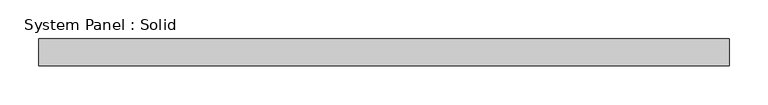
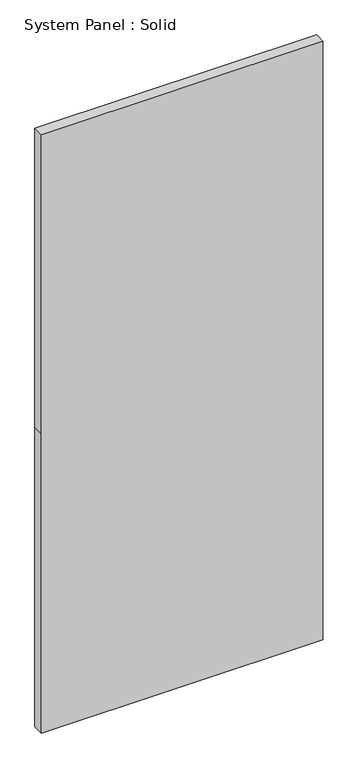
"""IFC4 building model written with IfcOpenShell, lengths in millimetres: plate geometry, System Panel : Solid."""

import ifcopenshell
import ifcopenshell.guid

model = None  # the IFC model being written
_history = None  # IfcOwnerHistory: only IFC2X3 demands one
_inside = {}  # id of a spatial element -> (the spatial element, [elements in it])
_under = {}  # id of a project, library or spatial element -> (it, [spatial elements below it])
_declared = {}  # id of a project -> (the project, [libraries it declares])
_typed = {}  # id of a type object -> (the type object, [elements of that type])
_made_of = {}  # id of a material, layer set ... -> (it, [elements and type objects made of it])


def new_model(schema):
    """Start an empty IFC model of exactly this schema.

    Asked for "IFC4X3", IfcOpenShell would pick the latest addendum, in which some entities
    have other attributes; the version numbers below select the first issue.
    IFC2X3 requires an IfcOwnerHistory on every rooted entity: one is made here for all.
    """
    global model, _history
    if schema == "IFC4X3":
        model = ifcopenshell.file(schema_version=(4, 3, 0, 0))
    else:
        model = ifcopenshell.file(schema=schema)
    _inside.clear()
    _under.clear()
    _declared.clear()
    _typed.clear()
    _made_of.clear()
    _history = None
    if model.schema == "IFC2X3":
        org = make("IfcOrganization", Name="unknown")
        user = make(
            "IfcPersonAndOrganization",
            ThePerson=make("IfcPerson", FamilyName="unknown"),
            TheOrganization=org,
        )
        app = make(
            "IfcApplication",
            ApplicationDeveloper=org,
            Version="unknown",
            ApplicationFullName="unknown",
            ApplicationIdentifier="unknown",
        )
        _history = make(
            "IfcOwnerHistory",
            OwningUser=user,
            OwningApplication=app,
            ChangeAction="ADDED",
            CreationDate=0,
        )
    return model


def make(cls, **values):
    """One entity of the class cls with the attributes given. An attribute that is None is left unset."""
    return model.create_entity(
        cls, **{name: value for name, value in values.items() if value is not None}
    )


def rooted(cls, **values):
    """An entity with a GlobalId (a new one), such as an element, a storey or a relation."""
    return make(cls, GlobalId=ifcopenshell.guid.new(), OwnerHistory=_history, **values)


def si_unit(unit_type, name, prefix=None):
    """IfcSIUnit, for example si_unit("LENGTHUNIT", "METRE", prefix="MILLI")."""
    return make("IfcSIUnit", UnitType=unit_type, Prefix=prefix, Name=name)


def assignment(units):
    """IfcUnitAssignment: the units of a project."""
    return None if units is None else make("IfcUnitAssignment", Units=units)


def point(xyz):
    """IfcCartesianPoint."""
    return None if xyz is None else make("IfcCartesianPoint", Coordinates=xyz)


def direction(xyz):
    """IfcDirection."""
    return None if xyz is None else make("IfcDirection", DirectionRatios=xyz)


def frame(location, z_axis=None, x_axis=None):
    """IfcAxis2Placement3D, a coordinate frame: its origin and axes. An axis left out is left unset."""
    return make(
        "IfcAxis2Placement3D",
        Location=point(location),
        Axis=direction(z_axis),
        RefDirection=direction(x_axis),
    )


def origin():
    """The frame at (0, 0, 0) with its axes left unset."""
    return frame((0.0, 0.0, 0.0))


def place(relative_to, where):
    """IfcLocalPlacement: puts the frame where relative to a parent placement (None: the world)."""
    return make(
        "IfcLocalPlacement", PlacementRelTo=relative_to, RelativePlacement=where
    )


def context(
    kind, dimensions, precision=None, world=None, true_north=None, identifier=None
):
    """IfcGeometricRepresentationContext, for example the 3D "Model" context."""
    return make(
        "IfcGeometricRepresentationContext",
        ContextIdentifier=identifier,
        ContextType=kind,
        CoordinateSpaceDimension=dimensions,
        Precision=precision,
        WorldCoordinateSystem=world,
        TrueNorth=true_north,
    )


def project(units=None, contexts=None):
    """IfcProject with its units and contexts."""
    return rooted(
        "IfcProject",
        Name="project",
        RepresentationContexts=contexts,
        UnitsInContext=assignment(units),
    )


def spatial(cls, under=None, at=None, **own):
    """A site, building, storey or space (cls), placed at a placement, below another one or the project."""
    s = rooted(cls, ObjectPlacement=at, **own)
    if under is not None:
        _under.setdefault(under.id(), (under, []))[1].append(s)
    return s


def polyline(points):
    """IfcPolyline through the points."""
    return make("IfcPolyline", Points=[point(p) for p in points])


def outline(outer, holes=None, kind="AREA"):
    """IfcArbitraryClosedProfileDef: a profile drawn as a closed curve; with holes, ...WithVoids."""
    if holes is None:
        return make("IfcArbitraryClosedProfileDef", ProfileType=kind, OuterCurve=outer)
    return make(
        "IfcArbitraryProfileDefWithVoids",
        ProfileType=kind,
        OuterCurve=outer,
        InnerCurves=holes,
    )


def extrude(swept, where, along, depth):
    """IfcExtrudedAreaSolid: the profile swept, set in the frame where, extruded along a direction by depth."""
    return make(
        "IfcExtrudedAreaSolid",
        SweptArea=swept,
        Position=where,
        ExtrudedDirection=direction(along),
        Depth=depth,
    )


def shape(context_of_items, identifier, shape_type, items):
    """IfcShapeRepresentation: the items that make up one representation, for example the "Body"."""
    return make(
        "IfcShapeRepresentation",
        ContextOfItems=context_of_items,
        RepresentationIdentifier=identifier,
        RepresentationType=shape_type,
        Items=items,
    )


def source(mapping_origin, context_of_items, identifier, shape_type, items):
    """IfcRepresentationMap: a shape defined once, which mapped items show again and again."""
    return make(
        "IfcRepresentationMap",
        MappingOrigin=mapping_origin,
        MappedRepresentation=shape(context_of_items, identifier, shape_type, items),
    )


def transform(
    local_origin,
    x_axis=None,
    y_axis=None,
    z_axis=None,
    scale=None,
    scale2=None,
    scale3=None,
    uniform=True,
):
    """IfcCartesianTransformationOperator3D, or its non-uniform kind. x_axis, y_axis, z_axis: its Axis1, 2, 3."""
    if uniform:
        return make(
            "IfcCartesianTransformationOperator3D",
            Axis1=direction(x_axis),
            Axis2=direction(y_axis),
            LocalOrigin=point(local_origin),
            Scale=scale,
            Axis3=direction(z_axis),
        )
    return make(
        "IfcCartesianTransformationOperator3DnonUniform",
        Axis1=direction(x_axis),
        Axis2=direction(y_axis),
        LocalOrigin=point(local_origin),
        Scale=scale,
        Axis3=direction(z_axis),
        Scale2=scale2,
        Scale3=scale3,
    )


def mapped(mapping_source, mapping_target):
    """IfcMappedItem: shows the shape of a source again, moved by a transform."""
    return make(
        "IfcMappedItem", MappingSource=mapping_source, MappingTarget=mapping_target
    )


def made_of(thing, what):
    """Note that an element or type object is made of a material, layer set ...; save() writes the relation."""
    if what is not None:
        _made_of.setdefault(what.id(), (what, []))[1].append(thing)
    return thing


def element(
    cls,
    number,
    at=None,
    inside=None,
    cuts=None,
    type_object=None,
    material=None,
    context=None,
    identifier="Body",
    shape_type=None,
    held_by="IfcProductDefinitionShape",
    body=None,
    shapes=None,
    **own,
):
    """One element of the class cls, such as IfcWall. Its Tag is "e" and its number.

    at: its placement. inside: the storey or other place that contains it. cuts: it is an
    opening in that element (IfcRelVoidsElement). A single representation is given by context,
    identifier, shape_type and body (its items); several are given by shapes. held_by: the class
    of the entity that holds the representations. save() writes the other relations.
    """
    e = rooted(cls, Tag="e%d" % number, ObjectPlacement=at, **own)
    if body is not None:
        shapes = [shape(context, identifier, shape_type, body)]
    if shapes is not None:
        e.Representation = make(held_by, Representations=shapes)
    if inside is not None:
        _inside.setdefault(inside.id(), (inside, []))[1].append(e)
    if cuts is not None:
        rooted(
            "IfcRelVoidsElement", RelatingBuildingElement=cuts, RelatedOpeningElement=e
        )
    if type_object is not None:
        _typed.setdefault(type_object.id(), (type_object, []))[1].append(e)
    return made_of(e, material)


def aggregate(whole, parts):
    """IfcRelAggregates: a whole, such as a stair, and the parts it consists of."""
    return rooted("IfcRelAggregates", RelatingObject=whole, RelatedObjects=parts)


def save(model, path):
    """Write the relations noted so far, then the file.

    IfcRelAggregates (storeys below a building ...), IfcRelContainedInSpatialStructure (elements
    in a storey), IfcRelDefinesByType, IfcRelAssociatesMaterial and IfcRelDeclares: one each for
    every whole, place, type object, material and project.
    """
    for whole, parts in _under.values():
        aggregate(whole, parts)
    for where, things in _inside.values():
        rooted(
            "IfcRelContainedInSpatialStructure",
            RelatedElements=things,
            RelatingStructure=where,
        )
    for kind, things in _typed.values():
        rooted("IfcRelDefinesByType", RelatedObjects=things, RelatingType=kind)
    for what, things in _made_of.values():
        rooted("IfcRelAssociatesMaterial", RelatedObjects=things, RelatingMaterial=what)
    for by, libraries in _declared.values():
        rooted("IfcRelDeclares", RelatingContext=by, RelatedDefinitions=libraries)
    model.write(path)


def system_panel_solid_8416bcea(model_context):
    return source(origin(), model_context, "Body", "SweptSolid", [
        extrude(outline(polyline([(0.0, -444.9999998), (0.0, 444.9999998), (1000.0, 444.9999998), (2000.0, 444.9999998), (2000.0, -444.9999998), (1000.0, -444.9999998), (0.0, -444.9999998)])), frame((0.0, -2.5, 0.0), z_axis=(0.0, 1.0, 0.0), x_axis=(0.0, 0.0, 1.0)), (0.0, 0.0, 1.0), 35.0),
    ])


if __name__ == "__main__":
    model = new_model("IFC4")
    model_context = context("Model", 3, world=origin())
    ifc_project = project(units=[si_unit("LENGTHUNIT", "METRE", prefix="MILLI")], contexts=[model_context])
    site = spatial("IfcSite", under=ifc_project)
    building = spatial("IfcBuilding", under=site)
    placement = place(None, origin())
    system_panel_solid_shape = system_panel_solid_8416bcea(model_context)
    element("IfcPlate", 1, ObjectType="System Panel : Solid", at=placement, inside=building, context=model_context, shape_type="MappedRepresentation", body=[
        mapped(system_panel_solid_shape, transform((0.0, 0.0, 0.0), x_axis=(1.0, 0.0, 0.0), y_axis=(0.0, 1.0, 0.0), z_axis=(0.0, 0.0, 1.0))),
    ])
    save(model, "model.ifc")
